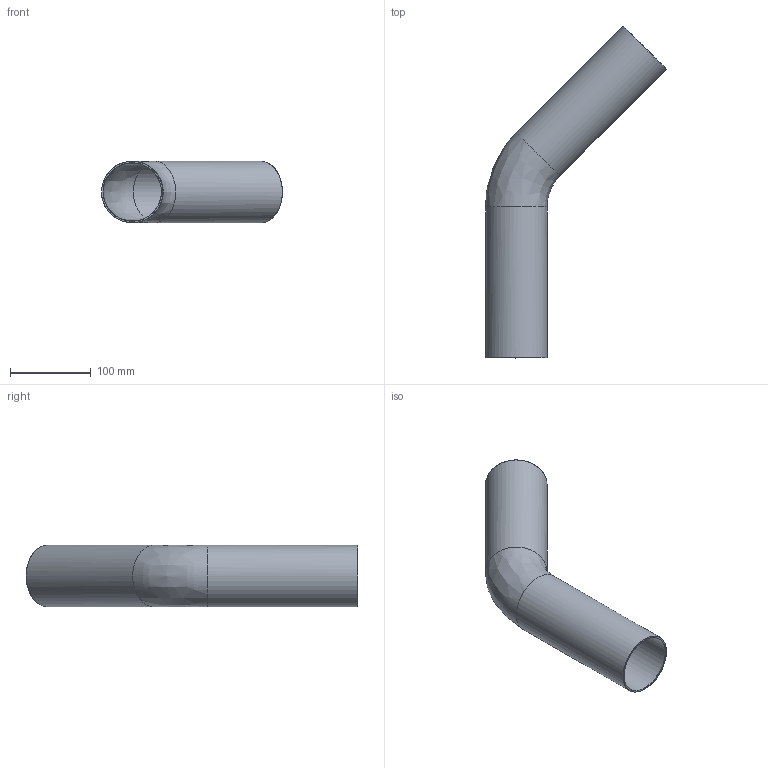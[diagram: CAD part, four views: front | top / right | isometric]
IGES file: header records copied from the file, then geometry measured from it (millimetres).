
Global section: file name: C73AK; native system: Autodesk Inventor 2023; preprocessor: unknown; author: lvalentini; date: 20230921.120730; units: millimetre
Bounding box: 223.97 x 410.92 x 76.1 mm (x, y, z)
Volume: 208160.9 mm3; surface area: 208776.3 mm2
Topology: 1 solids, 1 shells, 12 faces, 26 edges, 16 vertices
Faces by surface type: bspline 12
